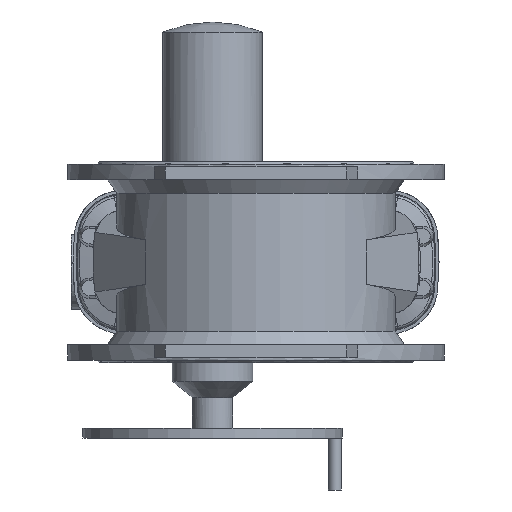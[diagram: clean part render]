
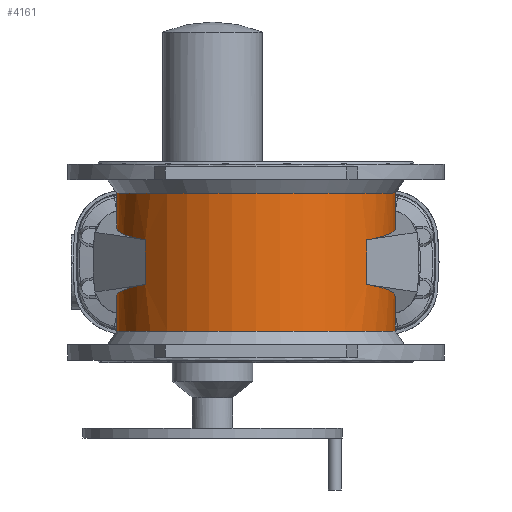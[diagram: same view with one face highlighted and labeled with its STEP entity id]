
A CAD part, front view. The second image highlights one B-rep face of the part: STEP entity #4161.
In plain terms, the highlighted cylindrical face has radius 214.499 mm (diameter 428.998 mm), a partial arc.
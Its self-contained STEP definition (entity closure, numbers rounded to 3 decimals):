
#368 = FACE_OUTER_BOUND ( 'NONE', #3402, .T. ) ;
#371 = CYLINDRICAL_SURFACE ( 'NONE', #15618, 214.499 ) ;
#678 = CIRCLE ( 'NONE', #1059, 214.499 ) ;
#704 = LINE ( 'NONE', #14545, #708 ) ;
#708 = VECTOR ( 'NONE', #14551, 1000. ) ;
#1059 = AXIS2_PLACEMENT_3D ( 'NONE', #14455, #14456, #14457 ) ;
#2623 = VERTEX_POINT ( 'NONE', #17022 ) ;
#2660 = VERTEX_POINT ( 'NONE', #17107 ) ;
#2713 = VERTEX_POINT ( 'NONE', #17164 ) ;
#2891 = EDGE_CURVE ( 'NONE', #11000, #10997, #7723, .T. ) ;
#3026 =( BOUNDED_CURVE ( )  B_SPLINE_CURVE ( 3, ( #14768, #14765, #14752, #14769 ),
 .UNSPECIFIED., .F., .F. ) 
 B_SPLINE_CURVE_WITH_KNOTS ( ( 4, 4 ),
 ( 3.304, 5.487 ),
 .UNSPECIFIED. ) 
 CURVE ( )  GEOMETRIC_REPRESENTATION_ITEM ( )  RATIONAL_B_SPLINE_CURVE ( ( 1., 0.641, 0.641, 1. ) ) 
 REPRESENTATION_ITEM ( '' )  );
#3402 = EDGE_LOOP ( 'NONE', ( #17429, #17430, #17431, #17432, #17433, #17434, #17435, #17436, #17437, #17438, #17439, #17440 ) ) ;
#4161 = ADVANCED_FACE ( 'NONE', ( #368 ), #371, .T. ) ;
#4338 = LINE ( 'NONE', #14890, #4339 ) ;
#4339 = VECTOR ( 'NONE', #14891, 1000. ) ;
#4420 = LINE ( 'NONE', #16534, #4421 ) ;
#4421 = VECTOR ( 'NONE', #16535, 1000. ) ;
#4449 = LINE ( 'NONE', #16854, #4450 ) ;
#4450 = VECTOR ( 'NONE', #16859, 1000. ) ;
#4495 = LINE ( 'NONE', #8519, #4497 ) ;
#4497 = VECTOR ( 'NONE', #8526, 1000. ) ;
#4737 = LINE ( 'NONE', #5971, #4738 ) ;
#4738 = VECTOR ( 'NONE', #5972, 1000. ) ;
#4946 =( BOUNDED_CURVE ( )  B_SPLINE_CURVE ( 3, ( #16566, #16564, #16568, #16569 ),
 .UNSPECIFIED., .F., .F. ) 
 B_SPLINE_CURVE_WITH_KNOTS ( ( 4, 4 ),
 ( 0.796, 2.98 ),
 .UNSPECIFIED. ) 
 CURVE ( )  GEOMETRIC_REPRESENTATION_ITEM ( )  RATIONAL_B_SPLINE_CURVE ( ( 1., 0.641, 0.641, 1. ) ) 
 REPRESENTATION_ITEM ( '' )  );
#4956 =( BOUNDED_CURVE ( )  B_SPLINE_CURVE ( 3, ( #16845, #16847, #16856, #16857 ),
 .UNSPECIFIED., .F., .F. ) 
 B_SPLINE_CURVE_WITH_KNOTS ( ( 4, 4 ),
 ( 0.162, 2.346 ),
 .UNSPECIFIED. ) 
 CURVE ( )  GEOMETRIC_REPRESENTATION_ITEM ( )  RATIONAL_B_SPLINE_CURVE ( ( 1., 0.641, 0.641, 1. ) ) 
 REPRESENTATION_ITEM ( '' )  );
#5066 =( BOUNDED_CURVE ( )  B_SPLINE_CURVE ( 3, ( #9920, #9946, #9950, #9951 ),
 .UNSPECIFIED., .F., .F. ) 
 B_SPLINE_CURVE_WITH_KNOTS ( ( 4, 4 ),
 ( 3.938, 6.121 ),
 .UNSPECIFIED. ) 
 CURVE ( )  GEOMETRIC_REPRESENTATION_ITEM ( )  RATIONAL_B_SPLINE_CURVE ( ( 1., 0.641, 0.641, 1. ) ) 
 REPRESENTATION_ITEM ( '' )  );
#5210 = DIRECTION ( 'NONE',  ( 1., 0., 0. ) ) ;
#5219 = DIRECTION ( 'NONE',  ( 0., 0., 1. ) ) ;
#5220 = CARTESIAN_POINT ( 'NONE',  ( 0., 0., -500000. ) ) ;
#5971 = CARTESIAN_POINT ( 'NONE',  ( -8., 214.35, -500000. ) ) ;
#5972 = DIRECTION ( 'NONE',  ( 0., 0., 1. ) ) ;
#7723 = CIRCLE ( 'NONE', #15415, 214.499 ) ;
#8519 = CARTESIAN_POINT ( 'NONE',  ( 8., 214.35, -500000. ) ) ;
#8526 = DIRECTION ( 'NONE',  ( 0., 0., -1. ) ) ;
#9834 = CARTESIAN_POINT ( 'NONE',  ( 8., 214.35, -106.291 ) ) ;
#9883 = CARTESIAN_POINT ( 'NONE',  ( -8., 214.35, -106.291 ) ) ;
#9886 = CARTESIAN_POINT ( 'NONE',  ( -8., 214.35, -85.693 ) ) ;
#9899 = CARTESIAN_POINT ( 'NONE',  ( 170.765, -129.804, 34.456 ) ) ;
#9920 = CARTESIAN_POINT ( 'NONE',  ( -170.765, -129.804, 34.456 ) ) ;
#9946 = CARTESIAN_POINT ( 'NONE',  ( -290.636, 27.894, 54.506 ) ) ;
#9950 = CARTESIAN_POINT ( 'NONE',  ( -205.947, 206.962, 81.165 ) ) ;
#9951 = CARTESIAN_POINT ( 'NONE',  ( -8., 214.35, 85.693 ) ) ;
#10544 = EDGE_CURVE ( 'NONE', #12464, #12401, #678, .T. ) ;
#10562 = EDGE_CURVE ( 'NONE', #10999, #10997, #704, .T. ) ;
#10620 = EDGE_CURVE ( 'NONE', #12469, #11024, #3026, .T. ) ;
#10642 = EDGE_CURVE ( 'NONE', #11024, #10990, #4338, .T. ) ;
#10763 = EDGE_CURVE ( 'NONE', #11000, #2713, #4420, .T. ) ;
#10772 = EDGE_CURVE ( 'NONE', #2623, #2660, #4946, .T. ) ;
#10990 = VERTEX_POINT ( 'NONE', #16735 ) ;
#10997 = VERTEX_POINT ( 'NONE', #16744 ) ;
#10999 = VERTEX_POINT ( 'NONE', #16746 ) ;
#11000 = VERTEX_POINT ( 'NONE', #16747 ) ;
#11024 = VERTEX_POINT ( 'NONE', #16773 ) ;
#11835 = EDGE_CURVE ( 'NONE', #2713, #12527, #4956, .T. ) ;
#11836 = EDGE_CURVE ( 'NONE', #12527, #2623, #4449, .T. ) ;
#11902 = EDGE_CURVE ( 'NONE', #2660, #12401, #4495, .T. ) ;
#12401 = VERTEX_POINT ( 'NONE', #9834 ) ;
#12464 = VERTEX_POINT ( 'NONE', #9883 ) ;
#12469 = VERTEX_POINT ( 'NONE', #9886 ) ;
#12527 = VERTEX_POINT ( 'NONE', #9899 ) ;
#12579 = EDGE_CURVE ( 'NONE', #10990, #10999, #5066, .T. ) ;
#12658 = EDGE_CURVE ( 'NONE', #12464, #12469, #4737, .T. ) ;
#14061 = CARTESIAN_POINT ( 'NONE',  ( 0., 0., 106.291 ) ) ;
#14062 = DIRECTION ( 'NONE',  ( 0., 0., -1. ) ) ;
#14063 = DIRECTION ( 'NONE',  ( 1., 0., 0. ) ) ;
#14455 = CARTESIAN_POINT ( 'NONE',  ( 0., 0., -106.291 ) ) ;
#14456 = DIRECTION ( 'NONE',  ( 0., 0., 1. ) ) ;
#14457 = DIRECTION ( 'NONE',  ( -1., 0., 0. ) ) ;
#14545 = CARTESIAN_POINT ( 'NONE',  ( -8., 214.35, -500000. ) ) ;
#14551 = DIRECTION ( 'NONE',  ( 0., 0., 1. ) ) ;
#14752 = CARTESIAN_POINT ( 'NONE',  ( -290.636, 27.894, -54.506 ) ) ;
#14765 = CARTESIAN_POINT ( 'NONE',  ( -205.947, 206.962, -81.165 ) ) ;
#14768 = CARTESIAN_POINT ( 'NONE',  ( -8., 214.35, -85.693 ) ) ;
#14769 = CARTESIAN_POINT ( 'NONE',  ( -170.765, -129.804, -34.456 ) ) ;
#14890 = CARTESIAN_POINT ( 'NONE',  ( -170.765, -129.804, -500000. ) ) ;
#14891 = DIRECTION ( 'NONE',  ( 0., 0., 1. ) ) ;
#15415 = AXIS2_PLACEMENT_3D ( 'NONE', #14061, #14062, #14063 ) ;
#15618 = AXIS2_PLACEMENT_3D ( 'NONE', #5220, #5219, #5210 ) ;
#16534 = CARTESIAN_POINT ( 'NONE',  ( 8., 214.35, -500000. ) ) ;
#16535 = DIRECTION ( 'NONE',  ( 0., 0., -1. ) ) ;
#16564 = CARTESIAN_POINT ( 'NONE',  ( 290.636, 27.894, -54.506 ) ) ;
#16566 = CARTESIAN_POINT ( 'NONE',  ( 170.765, -129.804, -34.456 ) ) ;
#16568 = CARTESIAN_POINT ( 'NONE',  ( 205.947, 206.962, -81.165 ) ) ;
#16569 = CARTESIAN_POINT ( 'NONE',  ( 8., 214.35, -85.693 ) ) ;
#16735 = CARTESIAN_POINT ( 'NONE',  ( -170.765, -129.804, 34.456 ) ) ;
#16744 = CARTESIAN_POINT ( 'NONE',  ( -8., 214.35, 106.291 ) ) ;
#16746 = CARTESIAN_POINT ( 'NONE',  ( -8., 214.35, 85.693 ) ) ;
#16747 = CARTESIAN_POINT ( 'NONE',  ( 8., 214.35, 106.291 ) ) ;
#16773 = CARTESIAN_POINT ( 'NONE',  ( -170.765, -129.804, -34.456 ) ) ;
#16845 = CARTESIAN_POINT ( 'NONE',  ( 8., 214.35, 85.693 ) ) ;
#16847 = CARTESIAN_POINT ( 'NONE',  ( 205.947, 206.962, 81.165 ) ) ;
#16854 = CARTESIAN_POINT ( 'NONE',  ( 170.765, -129.804, -500000. ) ) ;
#16856 = CARTESIAN_POINT ( 'NONE',  ( 290.636, 27.894, 54.506 ) ) ;
#16857 = CARTESIAN_POINT ( 'NONE',  ( 170.765, -129.804, 34.456 ) ) ;
#16859 = DIRECTION ( 'NONE',  ( 0., 0., -1. ) ) ;
#17022 = CARTESIAN_POINT ( 'NONE',  ( 170.765, -129.804, -34.456 ) ) ;
#17107 = CARTESIAN_POINT ( 'NONE',  ( 8., 214.35, -85.693 ) ) ;
#17164 = CARTESIAN_POINT ( 'NONE',  ( 8., 214.35, 85.693 ) ) ;
#17429 = ORIENTED_EDGE ( 'NONE', *, *, #10562, .F. ) ;
#17430 = ORIENTED_EDGE ( 'NONE', *, *, #12579, .F. ) ;
#17431 = ORIENTED_EDGE ( 'NONE', *, *, #10642, .F. ) ;
#17432 = ORIENTED_EDGE ( 'NONE', *, *, #10620, .F. ) ;
#17433 = ORIENTED_EDGE ( 'NONE', *, *, #12658, .F. ) ;
#17434 = ORIENTED_EDGE ( 'NONE', *, *, #10544, .T. ) ;
#17435 = ORIENTED_EDGE ( 'NONE', *, *, #11902, .F. ) ;
#17436 = ORIENTED_EDGE ( 'NONE', *, *, #10772, .F. ) ;
#17437 = ORIENTED_EDGE ( 'NONE', *, *, #11836, .F. ) ;
#17438 = ORIENTED_EDGE ( 'NONE', *, *, #11835, .F. ) ;
#17439 = ORIENTED_EDGE ( 'NONE', *, *, #10763, .F. ) ;
#17440 = ORIENTED_EDGE ( 'NONE', *, *, #2891, .T. ) ;
